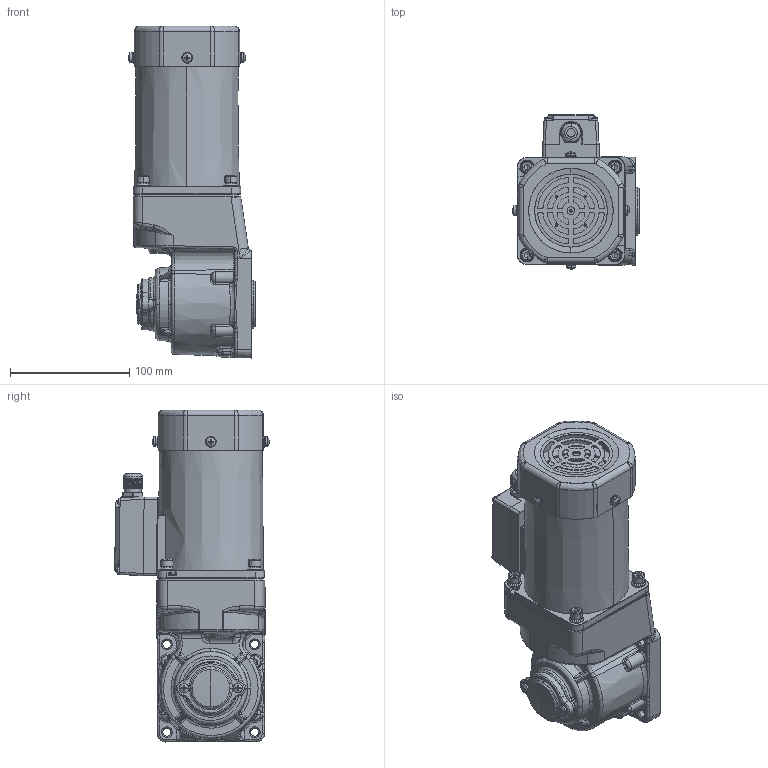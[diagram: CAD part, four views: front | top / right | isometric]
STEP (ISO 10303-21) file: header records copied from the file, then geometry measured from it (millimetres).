
FILE_DESCRIPTION (( 'STEP AP203' ), '1' );
FILE_NAME ('5RK120GU-CFT(5GU3RC-180RC)ÐÂ.STEP', '2023-08-18T06:21:01', ( 'Windows User' ), ( 'P R C' ), 'SwSTEP 2.0', 'SolidWorks 2019', '' );
FILE_SCHEMA (( 'CONFIG_CONTROL_DESIGN' ));
Length unit declared in the file: millimetre
Products named in the file (9): hexagon socket head cap screws gb_GB_FASTENER_SCREWS_HSHCS M5X12-N^5RK120GU-CFT(5GU3RC-180RC)ÐÂ(2)_5RK120GU-CFT(5GU3RC-180RC)ÐÂ; 90__________^5RK120GU-CFT(5GU3RC-180RC)陔(2)_5RK120GU-CFT(5GU3RC-180RC)陔; 90__________-0^5RK120GU-CFT(5GU3RC-180RC)陔(2)_5RK120GU-CFT(5GU3RC-180RC)陔; 5RK120GU-CFT(5GU3RC-180RC)陔(2)^5RK120GU-CFT(5GU3RC-180RC)陔; 5RK90GU-CFT(5GU3RT-180RT)^5RK120GU-CFT(5GU3RC-180RC)ÐÂ(2)_5RK120GU-CFT(5GU3RC-180RC)ÐÂ; 90RT____________^5RK120GU-CFT(5GU3RC-180RC)陔(2)_5RK120GU-CFT(5GU3RC-180RC)陔; ZD-5GU50RC-505-003______1^5RK120GU-CFT(5GU3RC-180RC)陔(2)_5RK120GU-CFT(5GU3RC-180RC)陔; 5RK120GU-CFT(5GU3RC-180RC)陔; cross recessed pan head screws gb_GB_CROSS_SCREWS_TYPE1 M4X6-6  H type-N^5RK120GU-CFT(5GU3RC-180RC)ÐÂ(2)_5RK120GU-CFT(5GU3RC-180RC)ÐÂ
Assembly tree (12 placements, depth 3):
  5RK120GU-CFT(5GU3RC-180RC)陔
    5RK120GU-CFT(5GU3RC-180RC)陔(2)^5RK120GU-CFT(5GU3RC-180RC)陔
      90__________^5RK120GU-CFT(5GU3RC-180RC)陔(2)_5RK120GU-CFT(5GU3RC-180RC)陔
      90RT____________^5RK120GU-CFT(5GU3RC-180RC)陔(2)_5RK120GU-CFT(5GU3RC-180RC)陔
      90__________-0^5RK120GU-CFT(5GU3RC-180RC)陔(2)_5RK120GU-CFT(5GU3RC-180RC)陔
      hexagon socket head cap screws gb_GB_FASTENER_SCREWS_HSHCS M5X12-N^5RK120GU-CFT(5GU3RC-180RC)ÐÂ(2)_5RK120GU-CFT(5GU3RC-180RC)ÐÂ  x4
      ZD-5GU50RC-505-003______1^5RK120GU-CFT(5GU3RC-180RC)陔(2)_5RK120GU-CFT(5GU3RC-180RC)陔
      cross recessed pan head screws gb_GB_CROSS_SCREWS_TYPE1 M4X6-6  H type-N^5RK120GU-CFT(5GU3RC-180RC)ÐÂ(2)_5RK120GU-CFT(5GU3RC-180RC)ÐÂ  x2
      5RK90GU-CFT(5GU3RT-180RT)^5RK120GU-CFT(5GU3RC-180RC)ÐÂ(2)_5RK120GU-CFT(5GU3RC-180RC)ÐÂ
Bounding box: 106.56 x 129.3 x 278.04 mm (x, y, z)
Volume: 1666157.7 mm3; surface area: 223277.1 mm2
Topology: 45 solids, 46 shells, 2943 faces, 7366 edges, 4437 vertices
Faces by surface type: cylinder 810, plane 773, cone 697, bspline 572, torus 85, sphere 6
Entity records: 118646 total; most frequent: CARTESIAN_POINT 54523, ORIENTED_EDGE 13966, DIRECTION 12346, EDGE_CURVE 6983, AXIS2_PLACEMENT_3D 4917, VERTEX_POINT 4294, EDGE_LOOP 3001, FACE_OUTER_BOUND 2843
